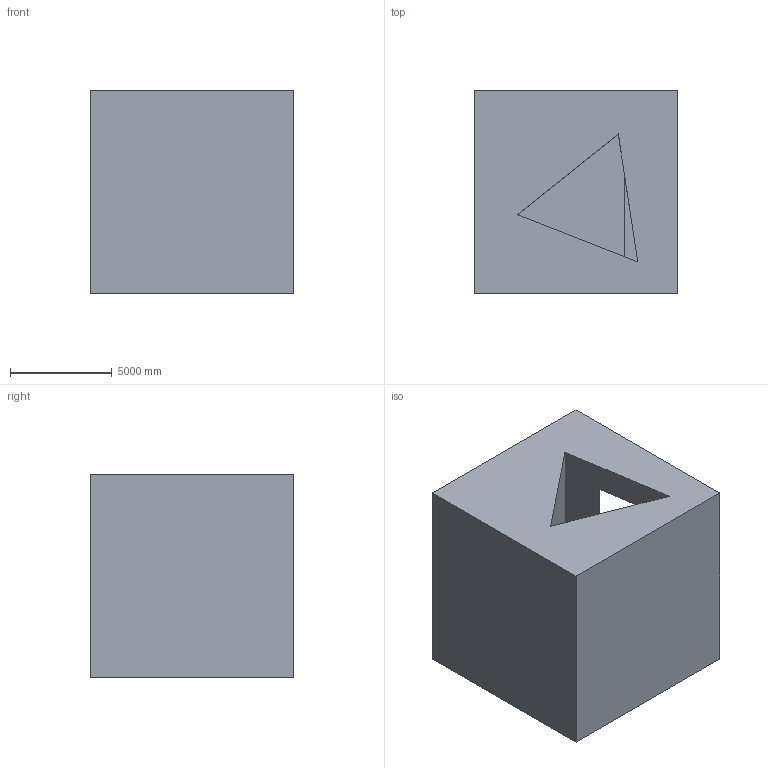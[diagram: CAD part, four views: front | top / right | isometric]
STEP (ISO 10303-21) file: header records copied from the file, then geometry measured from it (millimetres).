
FILE_DESCRIPTION (( 'STEP AP203' ), '1' );
FILE_NAME ('77.STEP', '2022-07-28T13:33:37', ( 'user' ), ( '' ), 'SwSTEP 2.0', 'SolidWorks 2021', '' );
FILE_SCHEMA (( 'CONFIG_CONTROL_DESIGN' ));
Length unit declared in the file: centimetre
Products named in the file (1): 77
Bounding box: 10000 x 10000 x 10000 mm (x, y, z)
Volume: 770613812868.8 mm3; surface area: 740573215 mm2
Topology: 1 solids, 1 shells, 15 faces, 39 edges, 26 vertices
Faces by surface type: plane 15
Entity records: 534 total; most frequent: CARTESIAN_POINT 81, ORIENTED_EDGE 78, DIRECTION 71, EDGE_CURVE 39, VECTOR 39, LINE 39, VERTEX_POINT 26, EDGE_LOOP 17
